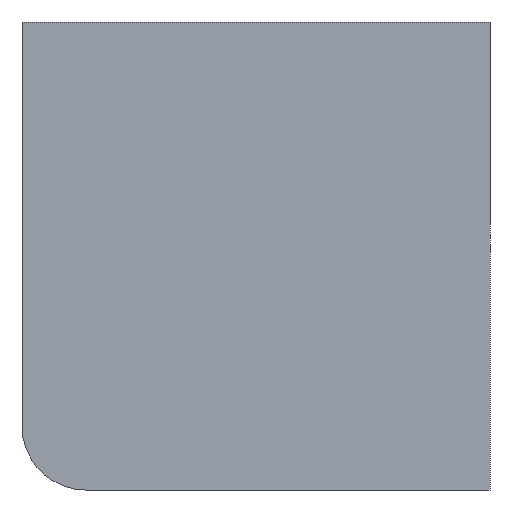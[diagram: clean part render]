
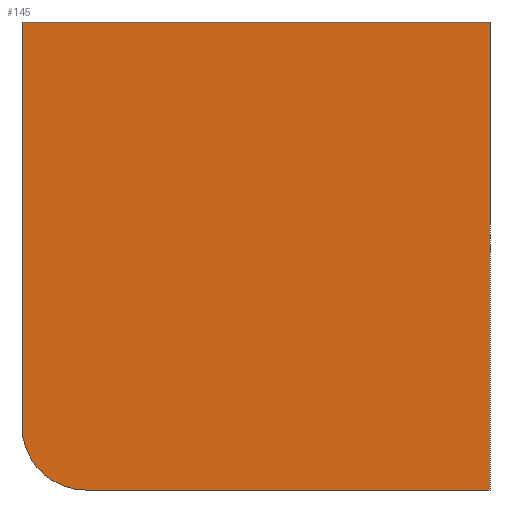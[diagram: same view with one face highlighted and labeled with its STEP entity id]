
A CAD part, front view. The second image highlights one B-rep face of the part: STEP entity #145.
In plain terms, the highlighted planar face has unit normal (0, -1, 0).
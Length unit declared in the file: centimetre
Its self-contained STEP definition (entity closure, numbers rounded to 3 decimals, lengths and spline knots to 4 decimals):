
#19 = VECTOR ( 'NONE', #278, 100. ) ;
#30 = ORIENTED_EDGE ( 'NONE', *, *, #78, .T. ) ;
#38 = VERTEX_POINT ( 'NONE', #359 ) ;
#51 = VERTEX_POINT ( 'NONE', #213 ) ;
#67 = CARTESIAN_POINT ( 'NONE',  ( 0., 0., 1000. ) ) ;
#74 = LINE ( 'NONE', #106, #356 ) ;
#78 = EDGE_CURVE ( 'NONE', #121, #147, #102, .T. ) ;
#87 = CARTESIAN_POINT ( 'NONE',  ( 0., 0., 1000. ) ) ;
#95 = EDGE_CURVE ( 'NONE', #389, #147, #375, .T. ) ;
#96 = DIRECTION ( 'NONE',  ( 0., 0., 1. ) ) ;
#102 = LINE ( 'NONE', #138, #349 ) ;
#106 = CARTESIAN_POINT ( 'NONE',  ( 0., 0., 1000. ) ) ;
#115 = EDGE_CURVE ( 'NONE', #51, #38, #74, .T. ) ;
#116 = ORIENTED_EDGE ( 'NONE', *, *, #364, .F. ) ;
#118 = ORIENTED_EDGE ( 'NONE', *, *, #393, .T. ) ;
#121 = VERTEX_POINT ( 'NONE', #310 ) ;
#123 = LINE ( 'NONE', #87, #203 ) ;
#127 = CARTESIAN_POINT ( 'NONE',  ( 1000., 0., 1000. ) ) ;
#129 = CIRCLE ( 'NONE', #178, 136.7055 ) ;
#132 = FACE_OUTER_BOUND ( 'NONE', #168, .T. ) ;
#133 = DIRECTION ( 'NONE',  ( 1., 0., 0. ) ) ;
#138 = CARTESIAN_POINT ( 'NONE',  ( 0., 0., 0. ) ) ;
#145 = ADVANCED_FACE ( 'NONE', ( #132 ), #283, .F. ) ;
#147 = VERTEX_POINT ( 'NONE', #312 ) ;
#168 = EDGE_LOOP ( 'NONE', ( #232, #118, #30, #325, #116 ) ) ;
#178 = AXIS2_PLACEMENT_3D ( 'NONE', #249, #366, #96 ) ;
#193 = DIRECTION ( 'NONE',  ( 0., 0., 1. ) ) ;
#198 = DIRECTION ( 'NONE',  ( 0., 1., 0. ) ) ;
#203 = VECTOR ( 'NONE', #304, 100. ) ;
#213 = CARTESIAN_POINT ( 'NONE',  ( 0., 0., 1000. ) ) ;
#232 = ORIENTED_EDGE ( 'NONE', *, *, #115, .T. ) ;
#249 = CARTESIAN_POINT ( 'NONE',  ( 136.7055, 0., 136.7055 ) ) ;
#278 = DIRECTION ( 'NONE',  ( 0., 0., -1. ) ) ;
#282 = AXIS2_PLACEMENT_3D ( 'NONE', #67, #198, #193 ) ;
#283 = PLANE ( 'NONE',  #282 ) ;
#304 = DIRECTION ( 'NONE',  ( 1., 0., 0. ) ) ;
#310 = CARTESIAN_POINT ( 'NONE',  ( 136.7055, 0., 0. ) ) ;
#312 = CARTESIAN_POINT ( 'NONE',  ( 1000., 0., 0. ) ) ;
#325 = ORIENTED_EDGE ( 'NONE', *, *, #95, .F. ) ;
#347 = DIRECTION ( 'NONE',  ( 0., 0., -1. ) ) ;
#349 = VECTOR ( 'NONE', #133, 100. ) ;
#356 = VECTOR ( 'NONE', #347, 100. ) ;
#359 = CARTESIAN_POINT ( 'NONE',  ( 0., 0., 136.7055 ) ) ;
#364 = EDGE_CURVE ( 'NONE', #51, #389, #123, .T. ) ;
#366 = DIRECTION ( 'NONE',  ( 0., -1., 0. ) ) ;
#375 = LINE ( 'NONE', #399, #19 ) ;
#389 = VERTEX_POINT ( 'NONE', #127 ) ;
#393 = EDGE_CURVE ( 'NONE', #38, #121, #129, .T. ) ;
#399 = CARTESIAN_POINT ( 'NONE',  ( 1000., 0., 1000. ) ) ;
